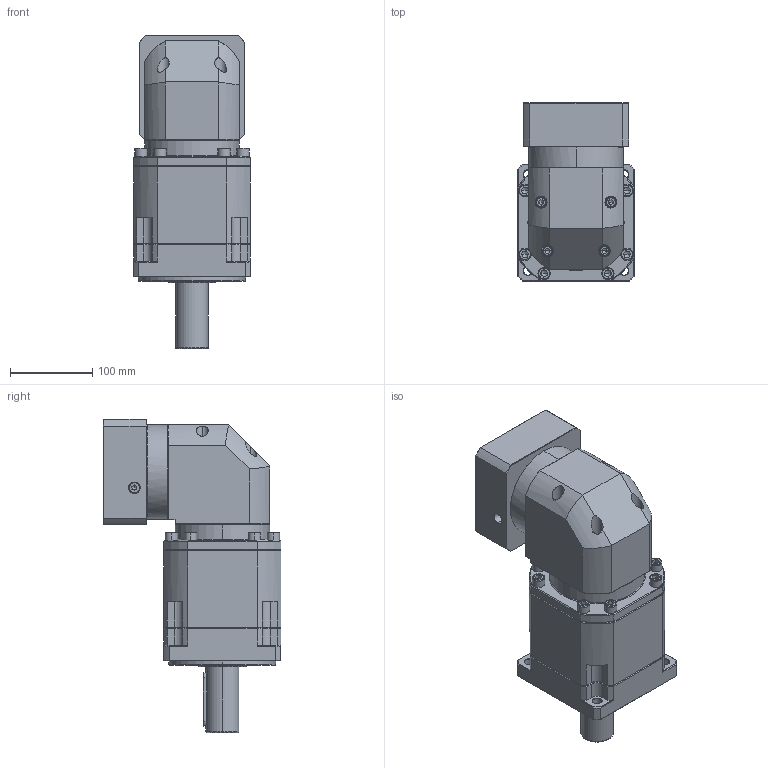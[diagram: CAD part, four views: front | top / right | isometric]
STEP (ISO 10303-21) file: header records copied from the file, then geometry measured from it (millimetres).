
FILE_DESCRIPTION (( 'STEP AP214' ), '1' );
FILE_NAME ('ZBR142A-D40-L3-P2-28-110-145-M8.step', '2023-09-02T08:11:59', ( '' ), ( '' ), 'SwSTEP 2.0', 'SolidWorks 2016', '' );
FILE_SCHEMA (( 'AUTOMOTIVE_DESIGN' ));
Length unit declared in the file: millimetre
Products named in the file (1): ZBR142A-D40-L3-P2-28-110-145-M8
Bounding box: 142 x 215.9 x 380.2 mm (x, y, z)
Volume: 5332463.4 mm3; surface area: 351663 mm2
Topology: 6 solids, 6 shells, 2591 faces, 6731 edges, 4263 vertices
Faces by surface type: plane 1233, cylinder 502, bspline 411, cone 399, torus 46
Entity records: 137007 total; most frequent: CARTESIAN_POINT 48566, ORIENTED_EDGE 13354, DIRECTION 10914, EDGE_CURVE 6677, VECTOR 4278, LINE 4278, VERTEX_POINT 4263, AXIS2_PLACEMENT_3D 3318
